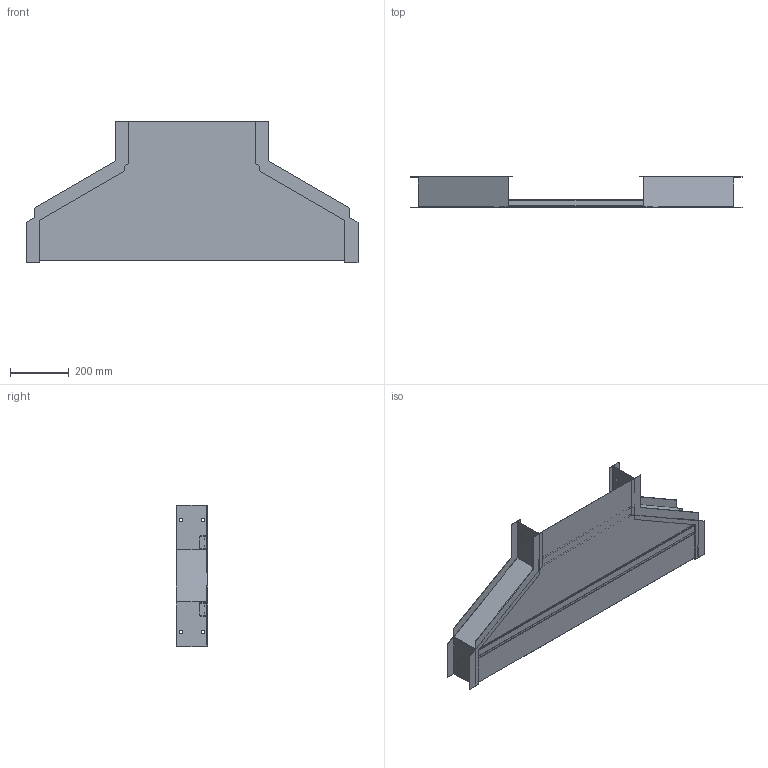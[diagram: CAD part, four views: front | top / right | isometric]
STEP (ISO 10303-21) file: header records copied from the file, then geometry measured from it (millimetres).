
FILE_DESCRIPTION((''),'2;1');
FILE_NAME('AHF44218SHSR_ASM','2010-01-27T',('erouzier'),(''),'PRO/ENGINEER BY PARAMETRIC TECHNOLOGY CORPORATION, 2008510','PRO/ENGINEER BY PARAMETRIC TECHNOLOGY CORPORATION, 2008510','');
FILE_SCHEMA(('CONFIG_CONTROL_DESIGN'));
Length unit declared in the file: inch
Products named in the file (5): CDS013867-4-120; CDS002159L42; CDS002159L18_AF3; CDS014362-42-18; AHF44218SHSR_ASM
Assembly tree (5 placements, depth 2):
  AHF44218SHSR_ASM
    CDS013867-4-120  x2
    CDS002159L42
    CDS002159L18_AF3
    CDS014362-42-18
Bounding box: 1127 x 106.43 x 480.78 mm (x, y, z)
Volume: 1059747.8 mm3; surface area: 1580306.7 mm2
Topology: 5 solids, 5 shells, 178 faces, 480 edges, 312 vertices
Faces by surface type: plane 156, cylinder 22
Entity records: 4011 total; most frequent: CARTESIAN_POINT 690, ORIENTED_EDGE 672, DIRECTION 648, EDGE_CURVE 336, VECTOR 292, LINE 292, VERTEX_POINT 220, AXIS2_PLACEMENT_3D 178
